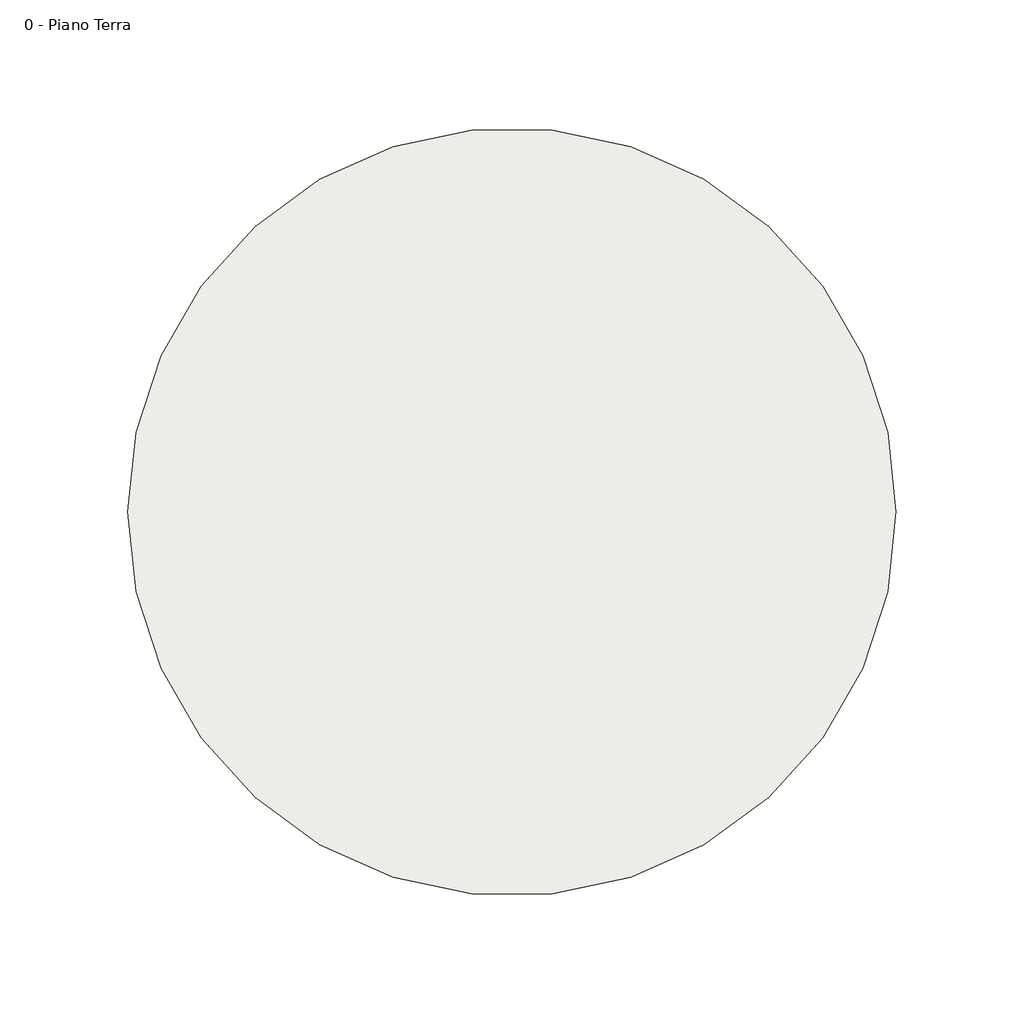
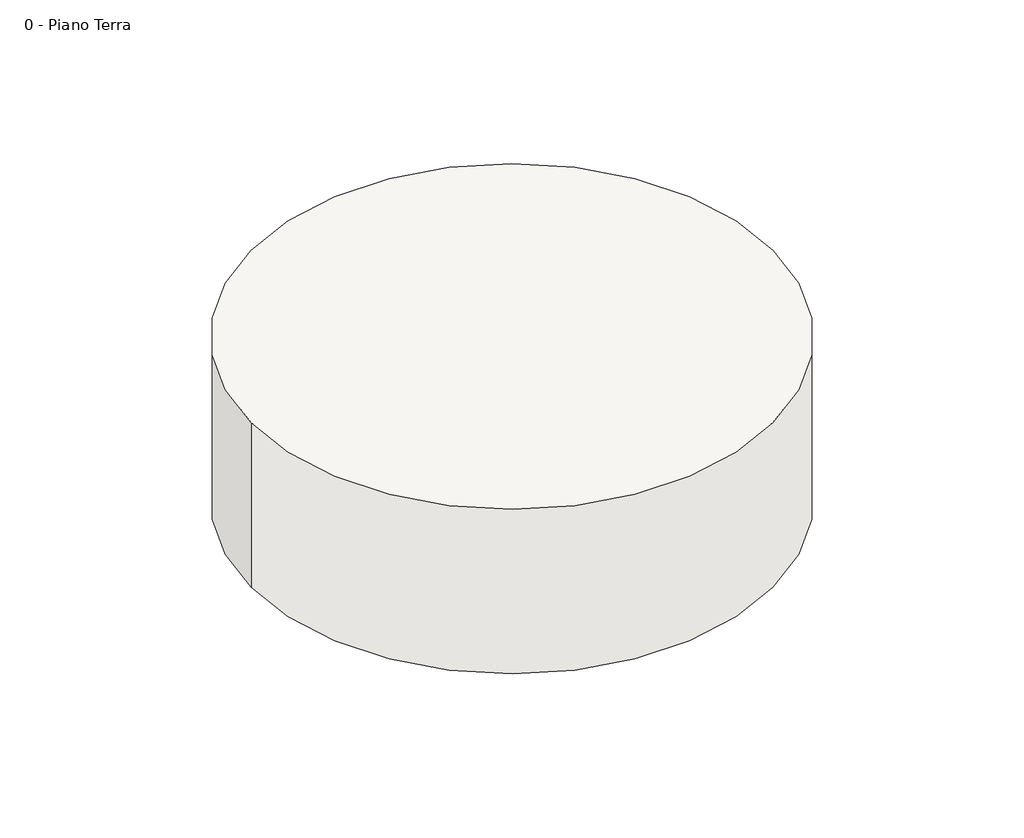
# One storey: 1 slab.
"""IFC4 building model written with IfcOpenShell, lengths in millimetres."""

from ifc_helpers import new_model, si_unit, point, frame, frame_2d, origin, place, context, project, spatial, circle_curve, trimmed, segment, composite_curve, outline, extrude, element, save

model = new_model("IFC4")

# Units and contexts
model_context = context("Model", 3, world=origin())
ifc_project = project(units=[si_unit("LENGTHUNIT", "METRE", prefix="MILLI")], contexts=[model_context])

# Site, building, storey
site = spatial("IfcSite", under=ifc_project)
building = spatial("IfcBuilding", under=site)
storey = spatial("IfcBuildingStorey", under=building, Name="0 - Piano Terra", Elevation=0.0)

# Slab
placement = place(None, origin())
element("IfcSlab", 1, ObjectType="BI MORTAR LEVELLING SEAL VOLTECO", at=placement, inside=storey, context=model_context, shape_type="SweptSolid", body=[
    extrude(outline(composite_curve([segment(trimmed(circle_curve(frame_2d((747.6847794, -14630.9443695)), 150.0), [point((597.6847794, -14630.9443695))], [point((897.6847794, -14630.9443695))], False, "CARTESIAN"), True, "CONTINUOUS"), segment(trimmed(circle_curve(frame_2d((747.6847794, -14630.9443695)), 150.0), [point((897.6847794, -14630.9443695))], [point((597.6847794, -14630.9443695))], False, "CARTESIAN"), True, "CONTINUOUS")], self_intersect=False)), frame((0.0, 0.0, -3000.0), z_axis=(0.0, 0.0, 1.0), x_axis=(1.0, 0.0, 0.0)), (0.0, 0.0, 1.0), 100.0),
])

save(model, "model.ifc")
